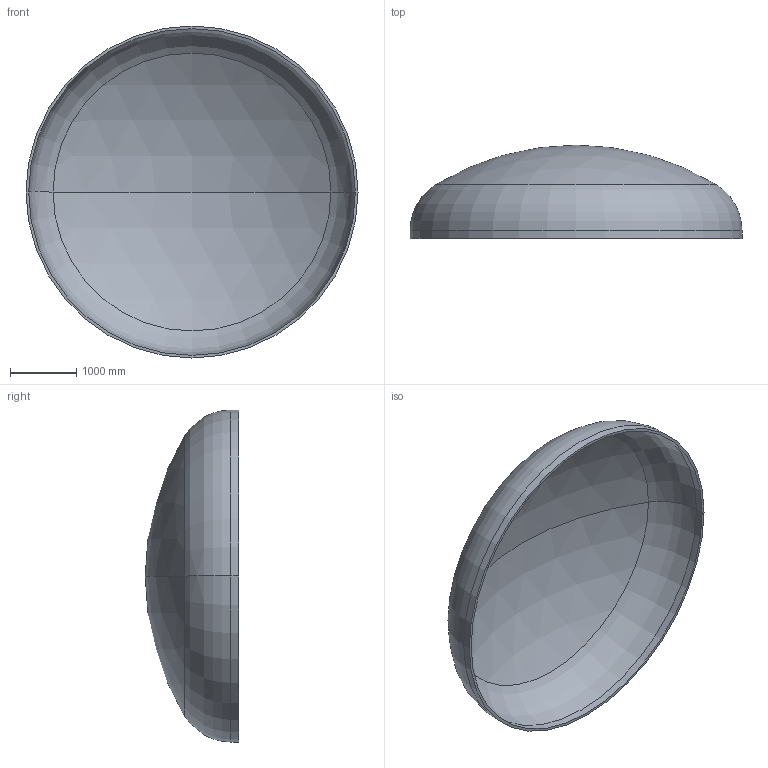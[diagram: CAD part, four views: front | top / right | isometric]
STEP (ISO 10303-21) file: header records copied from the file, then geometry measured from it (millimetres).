
FILE_DESCRIPTION (( 'STEP AP203' ), '1' );
FILE_NAME ('DIN 28013 Korbbogenform_-_Boden DIN 28013 - 5000 x 120 - I - s=40.step', '2016-07-02T00:27:32', ( '' ), ( '' ), 'SwSTEP 2.0', 'SolidWorks 2013', '' );
FILE_SCHEMA (( 'CONFIG_CONTROL_DESIGN' ));
Length unit declared in the file: millimetre
Products named in the file (1): DIN 28013 Korbbogenform_-_Boden DIN 28013 - 5000 x 120 - I - s=40
Bounding box: 5000 x 1407.4 x 5000 mm (x, y, z)
Volume: 1151120242.4 mm3; surface area: 58182633.3 mm2
Topology: 1 solids, 1 shells, 13 faces, 24 edges, 14 vertices
Faces by surface type: torus 4, cylinder 4, sphere 4, plane 1
Entity records: 407 total; most frequent: DIRECTION 72, CARTESIAN_POINT 52, ORIENTED_EDGE 48, AXIS2_PLACEMENT_3D 34, EDGE_CURVE 24, CIRCLE 20, EDGE_LOOP 14, VERTEX_POINT 14
